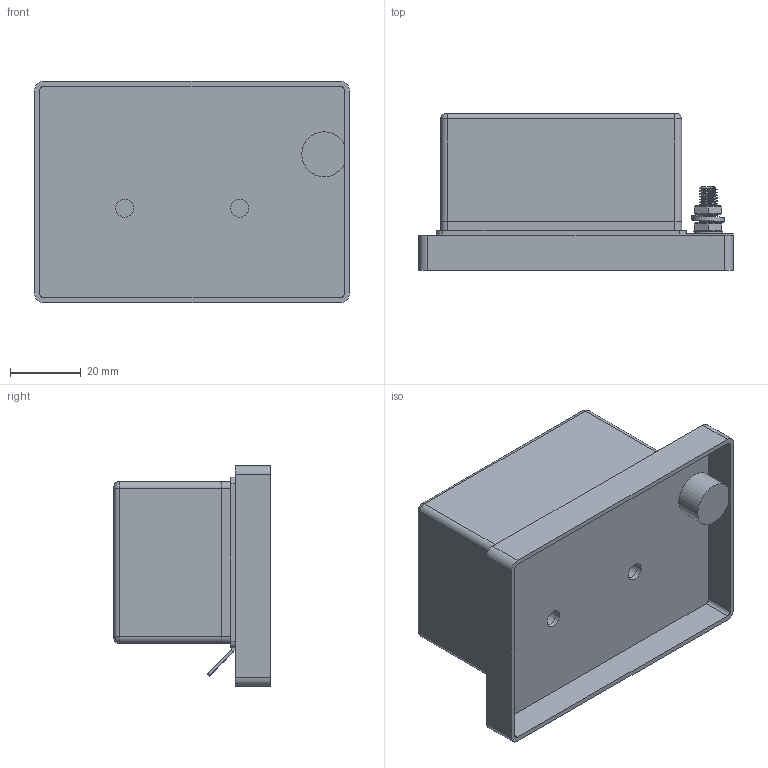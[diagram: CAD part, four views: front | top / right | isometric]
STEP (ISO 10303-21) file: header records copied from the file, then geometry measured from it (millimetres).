
FILE_DESCRIPTION(/* description */ (''),/* implementation_level */ '2;1');
FILE_NAME(/* name */ 'C:\Users\Hani\Desktop\work\BLR-604\BLR-I-604.stp',/* time_stamp */ '2021-07-08T11:16:18-07:00',/* author */ ('Hani'),/* organization */ (''),/* preprocessor_version */ 'ST-DEVELOPER v17',/* originating_system */ 'Autodesk Inventor 2019',/* authorisation */ '');
FILE_SCHEMA (('AUTOMOTIVE_DESIGN { 1 0 10303 214 3 1 1 }'));
Length unit declared in the file: inch
Products named in the file (10): BLR-I-604; Base; BLR-I-604-Block; terminal; BLR-604-Cover; plate; M5 Bolt; washer; M5 Lock Washer; M5 Nut
Assembly tree (13 placements, depth 2):
  BLR-I-604
    Base
    BLR-I-604-Block
    terminal  x4
    BLR-604-Cover
    plate
    M5 Bolt
    washer
    M5 Nut  x2
    M5 Lock Washer
Bounding box: 88.9 x 44.25 x 62.48 mm (x, y, z)
Volume: 67327.2 mm3; surface area: 50339.8 mm2
Topology: 13 solids, 13 shells, 659 faces, 1756 edges, 1157 vertices
Faces by surface type: plane 344, bspline 142, cylinder 141, cone 20, sphere 8, torus 4
Full cylindrical faces by diameter (mm): 1.905 x4, 2.54 x4, 3.961 x23, 5 x25, 5.08 x7, 8.255 x1, 9.779 x2
Entity records: 25617 total; most frequent: CARTESIAN_POINT 11657, ORIENTED_EDGE 3126, DIRECTION 2271, EDGE_CURVE 1563, VERTEX_POINT 1033, LINE 981, VECTOR 981, AXIS2_PLACEMENT_3D 645
